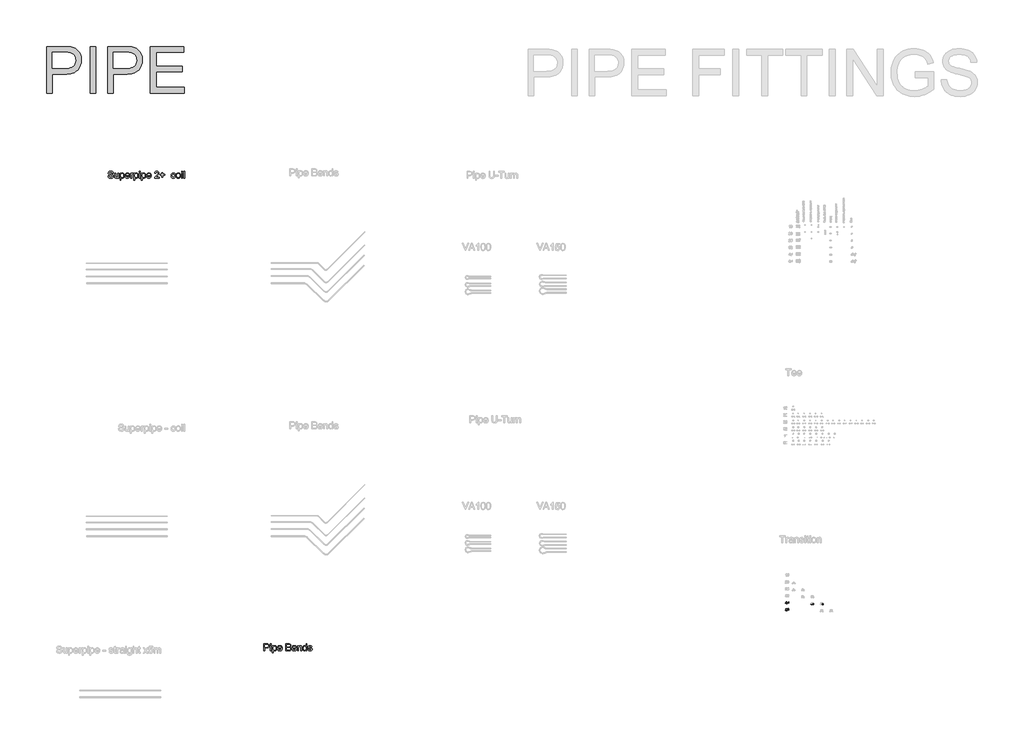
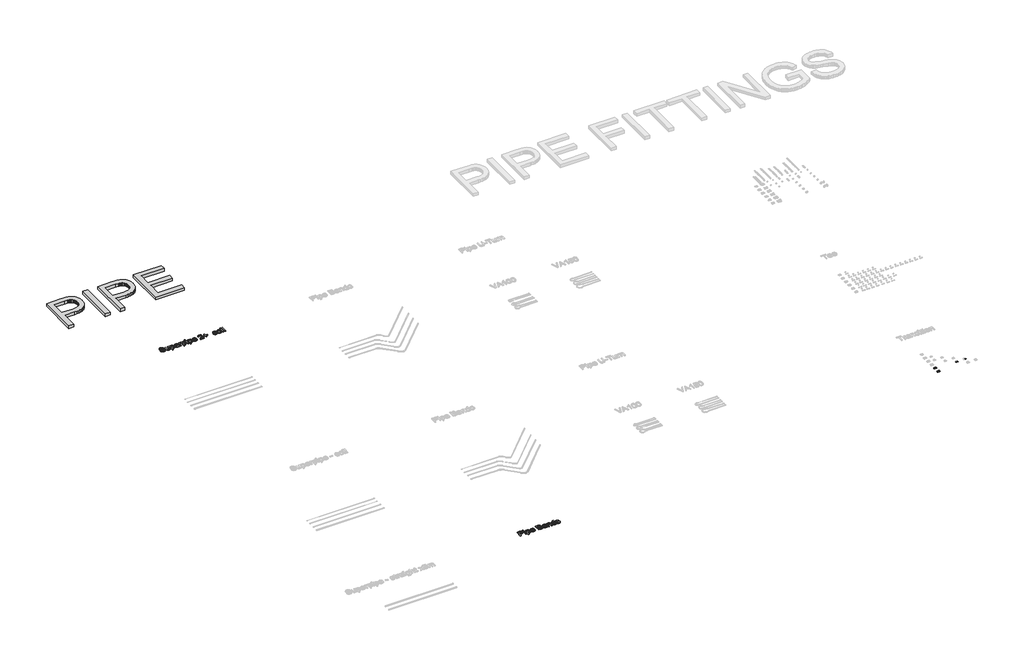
# One storey, part 13 of 26: 8 proxies.
"""IFC4 building model written with IfcOpenShell, lengths in millimetres."""

import ifcopenshell
import ifcopenshell.guid

model = None  # the IFC model being written
_history = None  # IfcOwnerHistory: only IFC2X3 demands one
_inside = {}  # id of a spatial element -> (the spatial element, [elements in it])
_under = {}  # id of a project, library or spatial element -> (it, [spatial elements below it])
_declared = {}  # id of a project -> (the project, [libraries it declares])
_typed = {}  # id of a type object -> (the type object, [elements of that type])
_made_of = {}  # id of a material, layer set ... -> (it, [elements and type objects made of it])


def new_model(schema):
    """Start an empty IFC model of exactly this schema.

    Asked for "IFC4X3", IfcOpenShell would pick the latest addendum, in which some entities
    have other attributes; the version numbers below select the first issue.
    IFC2X3 requires an IfcOwnerHistory on every rooted entity: one is made here for all.
    """
    global model, _history
    if schema == "IFC4X3":
        model = ifcopenshell.file(schema_version=(4, 3, 0, 0))
    else:
        model = ifcopenshell.file(schema=schema)
    _inside.clear()
    _under.clear()
    _declared.clear()
    _typed.clear()
    _made_of.clear()
    _history = None
    if model.schema == "IFC2X3":
        org = make("IfcOrganization", Name="unknown")
        user = make(
            "IfcPersonAndOrganization",
            ThePerson=make("IfcPerson", FamilyName="unknown"),
            TheOrganization=org,
        )
        app = make(
            "IfcApplication",
            ApplicationDeveloper=org,
            Version="unknown",
            ApplicationFullName="unknown",
            ApplicationIdentifier="unknown",
        )
        _history = make(
            "IfcOwnerHistory",
            OwningUser=user,
            OwningApplication=app,
            ChangeAction="ADDED",
            CreationDate=0,
        )
    return model


def make(cls, **values):
    """One entity of the class cls with the attributes given. An attribute that is None is left unset."""
    return model.create_entity(
        cls, **{name: value for name, value in values.items() if value is not None}
    )


def rooted(cls, **values):
    """An entity with a GlobalId (a new one), such as an element, a storey or a relation."""
    return make(cls, GlobalId=ifcopenshell.guid.new(), OwnerHistory=_history, **values)


def si_unit(unit_type, name, prefix=None):
    """IfcSIUnit, for example si_unit("LENGTHUNIT", "METRE", prefix="MILLI")."""
    return make("IfcSIUnit", UnitType=unit_type, Prefix=prefix, Name=name)


def assignment(units):
    """IfcUnitAssignment: the units of a project."""
    return None if units is None else make("IfcUnitAssignment", Units=units)


def point(xyz):
    """IfcCartesianPoint."""
    return None if xyz is None else make("IfcCartesianPoint", Coordinates=xyz)


def direction(xyz):
    """IfcDirection."""
    return None if xyz is None else make("IfcDirection", DirectionRatios=xyz)


def frame(location, z_axis=None, x_axis=None):
    """IfcAxis2Placement3D, a coordinate frame: its origin and axes. An axis left out is left unset."""
    return make(
        "IfcAxis2Placement3D",
        Location=point(location),
        Axis=direction(z_axis),
        RefDirection=direction(x_axis),
    )


def origin():
    """The frame at (0, 0, 0) with its axes left unset."""
    return frame((0.0, 0.0, 0.0))


def origin_with_axes():
    """The frame at (0, 0, 0) with the z axis (0, 0, 1) and the x axis (1, 0, 0) written out."""
    return frame((0.0, 0.0, 0.0), z_axis=(0.0, 0.0, 1.0), x_axis=(1.0, 0.0, 0.0))


def place(relative_to, where):
    """IfcLocalPlacement: puts the frame where relative to a parent placement (None: the world)."""
    return make(
        "IfcLocalPlacement", PlacementRelTo=relative_to, RelativePlacement=where
    )


def context(
    kind, dimensions, precision=None, world=None, true_north=None, identifier=None
):
    """IfcGeometricRepresentationContext, for example the 3D "Model" context."""
    return make(
        "IfcGeometricRepresentationContext",
        ContextIdentifier=identifier,
        ContextType=kind,
        CoordinateSpaceDimension=dimensions,
        Precision=precision,
        WorldCoordinateSystem=world,
        TrueNorth=true_north,
    )


def project(units=None, contexts=None):
    """IfcProject with its units and contexts."""
    return rooted(
        "IfcProject",
        Name="project",
        RepresentationContexts=contexts,
        UnitsInContext=assignment(units),
    )


def spatial(cls, under=None, at=None, **own):
    """A site, building, storey or space (cls), placed at a placement, below another one or the project."""
    s = rooted(cls, ObjectPlacement=at, **own)
    if under is not None:
        _under.setdefault(under.id(), (under, []))[1].append(s)
    return s


def polyline(points):
    """IfcPolyline through the points."""
    return make("IfcPolyline", Points=[point(p) for p in points])


def outline(outer, holes=None, kind="AREA"):
    """IfcArbitraryClosedProfileDef: a profile drawn as a closed curve; with holes, ...WithVoids."""
    if holes is None:
        return make("IfcArbitraryClosedProfileDef", ProfileType=kind, OuterCurve=outer)
    return make(
        "IfcArbitraryProfileDefWithVoids",
        ProfileType=kind,
        OuterCurve=outer,
        InnerCurves=holes,
    )


def extrude(swept, where, along, depth):
    """IfcExtrudedAreaSolid: the profile swept, set in the frame where, extruded along a direction by depth."""
    return make(
        "IfcExtrudedAreaSolid",
        SweptArea=swept,
        Position=where,
        ExtrudedDirection=direction(along),
        Depth=depth,
    )


def shape(context_of_items, identifier, shape_type, items):
    """IfcShapeRepresentation: the items that make up one representation, for example the "Body"."""
    return make(
        "IfcShapeRepresentation",
        ContextOfItems=context_of_items,
        RepresentationIdentifier=identifier,
        RepresentationType=shape_type,
        Items=items,
    )


def made_of(thing, what):
    """Note that an element or type object is made of a material, layer set ...; save() writes the relation."""
    if what is not None:
        _made_of.setdefault(what.id(), (what, []))[1].append(thing)
    return thing


def element(
    cls,
    number,
    at=None,
    inside=None,
    cuts=None,
    type_object=None,
    material=None,
    context=None,
    identifier="Body",
    shape_type=None,
    held_by="IfcProductDefinitionShape",
    body=None,
    shapes=None,
    **own,
):
    """One element of the class cls, such as IfcWall. Its Tag is "e" and its number.

    at: its placement. inside: the storey or other place that contains it. cuts: it is an
    opening in that element (IfcRelVoidsElement). A single representation is given by context,
    identifier, shape_type and body (its items); several are given by shapes. held_by: the class
    of the entity that holds the representations. save() writes the other relations.
    """
    e = rooted(cls, Tag="e%d" % number, ObjectPlacement=at, **own)
    if body is not None:
        shapes = [shape(context, identifier, shape_type, body)]
    if shapes is not None:
        e.Representation = make(held_by, Representations=shapes)
    if inside is not None:
        _inside.setdefault(inside.id(), (inside, []))[1].append(e)
    if cuts is not None:
        rooted(
            "IfcRelVoidsElement", RelatingBuildingElement=cuts, RelatedOpeningElement=e
        )
    if type_object is not None:
        _typed.setdefault(type_object.id(), (type_object, []))[1].append(e)
    return made_of(e, material)


def aggregate(whole, parts):
    """IfcRelAggregates: a whole, such as a stair, and the parts it consists of."""
    return rooted("IfcRelAggregates", RelatingObject=whole, RelatedObjects=parts)


def save(model, path):
    """Write the relations noted so far, then the file.

    IfcRelAggregates (storeys below a building ...), IfcRelContainedInSpatialStructure (elements
    in a storey), IfcRelDefinesByType, IfcRelAssociatesMaterial and IfcRelDeclares: one each for
    every whole, place, type object, material and project.
    """
    for whole, parts in _under.values():
        aggregate(whole, parts)
    for where, things in _inside.values():
        rooted(
            "IfcRelContainedInSpatialStructure",
            RelatedElements=things,
            RelatingStructure=where,
        )
    for kind, things in _typed.values():
        rooted("IfcRelDefinesByType", RelatedObjects=things, RelatingType=kind)
    for what, things in _made_of.values():
        rooted("IfcRelAssociatesMaterial", RelatedObjects=things, RelatingMaterial=what)
    for by, libraries in _declared.values():
        rooted("IfcRelDeclares", RelatingContext=by, RelatedDefinitions=libraries)
    model.write(path)


model = new_model("IFC4")

# Units and contexts
model_context = context("Model", 3, world=origin())
ifc_project = project(units=[si_unit("LENGTHUNIT", "METRE", prefix="MILLI")], contexts=[model_context])

# Site, building, storey
site = spatial("IfcSite", under=ifc_project)
building = spatial("IfcBuilding", under=site)
storey = spatial("IfcBuildingStorey", under=building, Name="Superpipe UFH", Elevation=0.0)

# Proxies
placement = place(None, origin())
element("IfcBuildingElementProxy", 1, Name="100mm Arial", ObjectType="100mm Arial", at=placement, inside=storey, context=model_context, shape_type="SweptSolid", body=[
    extrude(outline(polyline([(25289.336448, 15906.9604768), (25289.336448, 15930.5049245), (25243.8171825, 15930.5049245), (25243.8171825, 15943.0619633), (25292.4757077, 16005.8471571), (25301.8934868, 16005.8471571), (25301.8934868, 15943.0619633), (25314.4505256, 15943.0619633), (25314.4505256, 15930.5049245), (25301.8934868, 15930.5049245), (25301.8934868, 15906.9604768), (25289.336448, 15906.9604768)]), holes=[polyline([(25289.336448, 15943.0619633), (25289.336448, 15981.8612511), (25259.2682263, 15943.0619633), (25289.336448, 15943.0619633)])]), origin_with_axes(), (0.0, 0.0, 1.0), 2.0),
    extrude(outline(polyline([(25325.4379345, 15956.3792915), (25329.1290172, 15985.2825536), (25340.0919006, 16001.947608), (25358.4001612, 16007.416787), (25373.0663901, 16004.1794254), (25383.1954077, 15994.8474855), (25389.0815196, 15979.9850529), (25391.362388, 15956.3792915), (25387.7080935, 15927.5986568), (25376.7819983, 15910.8968142), (25368.5506386, 15906.7673388), (25358.4001612, 15905.390847), (25345.3526131, 15907.78208), (25335.4443247, 15914.9557789), (25327.939532, 15931.9457957), (25325.4379345, 15956.3792915)]), holes=[polyline([(25337.9949732, 15956.403817), (25339.4665012, 15936.6516195), (25343.8810852, 15925.2196865), (25350.4539101, 15919.765836), (25358.4001612, 15917.9478858), (25366.3464123, 15919.7719673), (25372.9192373, 15925.244212), (25377.3338213, 15936.6822764), (25378.8053492, 15956.403817), (25377.3828722, 15975.7114904), (25373.1154411, 15987.2323282), (25366.5548788, 15992.9528932), (25358.2530084, 15994.8597482), (25350.3925965, 15993.1797538), (25344.0772889, 15988.1397704), (25339.5155522, 15975.9015627), (25337.9949732, 15956.403817)])]), origin_with_axes(), (0.0, 0.0, 1.0), 2.0),
])
element("IfcBuildingElementProxy", 2, Name="100mm Arial", ObjectType="100mm Arial", at=placement, inside=storey, context=model_context, shape_type="SweptSolid", body=[
    extrude(outline(polyline([(25248.526072, 15633.6441842), (25261.0831108, 15635.2138141), (25267.4106811, 15622.2766306), (25280.5318056, 15617.9478858), (25289.5326517, 15619.4531363), (25296.277155, 15623.9688878), (25300.4894038, 15630.9739741), (25301.8934868, 15639.9472291), (25296.6327743, 15654.8587126), (25290.0262268, 15658.9605969), (25280.7280093, 15660.3278916), (25269.7038122, 15658.1451251), (25262.6527406, 15652.4797424), (25250.0957019, 15654.0493722), (25261.0831108, 15705.8471571), (25309.741636, 15705.8471571), (25309.741636, 15693.2901184), (25271.2366539, 15693.2901184), (25265.8655767, 15665.6253923), (25274.835766, 15671.0700459), (25284.235151, 15672.8849304), (25295.967521, 15670.6347188), (25305.7071968, 15663.8840842), (25312.2646934, 15653.5956511), (25314.4505256, 15640.732044), (25312.4823569, 15628.1750052), (25306.5778509, 15617.432851), (25295.2716109, 15608.401348), (25280.4827547, 15605.390847), (25268.1495108, 15607.3252932), (25258.3239958, 15613.1286316), (25251.5886896, 15622.1264121), (25248.526072, 15633.6441842)])), origin_with_axes(), (0.0, 0.0, 1.0), 2.0),
    extrude(outline(polyline([(25325.4379345, 15656.3792915), (25329.1290172, 15685.2825536), (25340.0919006, 15701.947608), (25358.4001612, 15707.416787), (25373.0663901, 15704.1794254), (25383.1954077, 15694.8474855), (25389.0815196, 15679.9850529), (25391.362388, 15656.3792915), (25387.7080935, 15627.5986568), (25376.7819983, 15610.8968142), (25368.5506386, 15606.7673388), (25358.4001612, 15605.390847), (25345.3526131, 15607.78208), (25335.4443247, 15614.9557789), (25327.939532, 15631.9457957), (25325.4379345, 15656.3792915)]), holes=[polyline([(25337.9949732, 15656.403817), (25339.4665012, 15636.6516195), (25343.8810852, 15625.2196865), (25350.4539101, 15619.765836), (25358.4001612, 15617.9478858), (25366.3464123, 15619.7719673), (25372.9192373, 15625.244212), (25377.3338213, 15636.6822764), (25378.8053492, 15656.403817), (25377.3828722, 15675.7114904), (25373.1154411, 15687.2323282), (25366.5548788, 15692.9528932), (25358.2530084, 15694.8597482), (25350.3925965, 15693.1797538), (25344.0772889, 15688.1397704), (25339.5155522, 15675.9015627), (25337.9949732, 15656.403817)])]), origin_with_axes(), (0.0, 0.0, 1.0), 2.0),
])
element("IfcBuildingElementProxy", 3, Name="2000mm Arial", ObjectType="2000mm Arial", at=placement, inside=storey, context=model_context, shape_type="SweptSolid", body=[
    extrude(outline(polyline([(-6706.8962748, 37999.3793084), (-6706.8962748, 40008.5055114), (-5962.3031165, 40008.5055114), (-5788.9080695, 40003.7230455), (-5719.6849407, 39997.7449631), (-5662.1114085, 39989.3756477), (-5592.2291578, 39974.3078143), (-5528.2636759, 39953.6297805), (-5470.2149627, 39927.3415462), (-5418.0830183, 39895.4431116), (-5371.3160197, 39857.2753546), (-5329.3621438, 39812.1791533), (-5292.2213907, 39760.1545078), (-5259.8937604, 39701.2014181), (-5233.7128251, 39637.266593), (-5215.012157, 39570.2967415), (-5203.7917561, 39500.2918635), (-5200.0516225, 39427.251959), (-5202.5769791, 39364.3518021), (-5210.153049, 39303.9195202), (-5222.779832, 39245.9551133), (-5240.4573283, 39190.4585815), (-5263.1855378, 39137.4299247), (-5290.9644606, 39086.869143), (-5323.7940965, 39038.7762363), (-5361.6744457, 38993.1512047), (-5406.146014, 38951.534554), (-5458.7493072, 38915.4667901), (-5519.4843253, 38884.9479129), (-5588.3510684, 38859.9779225), (-5665.3495364, 38840.5568188), (-5750.4797294, 38826.6846019), (-5843.7416473, 38818.3612718), (-5945.1352901, 38815.5868284), (-6455.7554994, 38815.5868284), (-6455.7554994, 37999.3793084), (-6706.8962748, 37999.3793084)]), holes=[polyline([(-6455.7554994, 39066.7276038), (-5930.4200103, 39066.7276038), (-5809.6320885, 39072.4910884), (-5756.3198561, 39079.6954441), (-5707.7287759, 39089.7815421), (-5663.8588479, 39102.7493825), (-5624.7100723, 39118.5989651), (-5590.2824489, 39137.33029), (-5560.5759778, 39158.9433572), (-5534.9392012, 39183.1699194), (-5512.7206616, 39209.7417294), (-5493.9203588, 39238.6587871), (-5478.5382929, 39269.9210924), (-5466.5744638, 39303.5286455), (-5458.0288716, 39339.4814464), (-5452.9015163, 39377.7794949), (-5451.1923979, 39418.4227912), (-5455.2237714, 39477.0386557), (-5467.317892, 39531.2399363), (-5487.4747597, 39581.026633), (-5515.6943744, 39626.3987458), (-5550.4745513, 39665.8847466), (-5590.3131057, 39698.0131075), (-5635.2100376, 39722.7838285), (-5685.1653468, 39740.1969096), (-5726.4294439, 39747.7078337), (-5782.0409389, 39753.0727794), (-5936.3061222, 39757.364736), (-6455.7554994, 39757.364736), (-6455.7554994, 39066.7276038)])]), origin_with_axes(), (0.0, 0.0, 1.0), 150.0),
    extrude(outline(polyline([(-4823.3404595, 37999.3793084), (-4823.3404595, 40008.5055114), (-4572.1996841, 40008.5055114), (-4572.1996841, 37999.3793084), (-4823.3404595, 37999.3793084)])), origin_with_axes(), (0.0, 0.0, 1.0), 150.0),
    extrude(outline(polyline([(-4069.9181333, 37999.3793084), (-4069.9181333, 40008.5055114), (-3325.3249751, 40008.5055114), (-3151.929928, 40003.7230455), (-3082.7067993, 39997.7449631), (-3025.133267, 39989.3756477), (-2955.2510164, 39974.3078143), (-2891.2855344, 39953.6297805), (-2833.2368213, 39927.3415462), (-2781.1048769, 39895.4431116), (-2734.3378783, 39857.2753546), (-2692.3840024, 39812.1791533), (-2655.2432493, 39760.1545078), (-2622.915619, 39701.2014181), (-2596.7346836, 39637.266593), (-2578.0340156, 39570.2967415), (-2566.8136147, 39500.2918635), (-2563.0734811, 39427.251959), (-2565.5988377, 39364.3518021), (-2573.1749075, 39303.9195202), (-2585.8016906, 39245.9551133), (-2603.4791869, 39190.4585815), (-2626.2073964, 39137.4299247), (-2653.9863191, 39086.869143), (-2686.8159551, 39038.7762363), (-2724.6963043, 38993.1512047), (-2769.1678726, 38951.534554), (-2821.7711658, 38915.4667901), (-2882.5061839, 38884.9479129), (-2951.372927, 38859.9779225), (-3028.371395, 38840.5568188), (-3113.501588, 38826.6846019), (-3206.7635058, 38818.3612718), (-3308.1571486, 38815.5868284), (-3818.777358, 38815.5868284), (-3818.777358, 37999.3793084), (-4069.9181333, 37999.3793084)]), holes=[polyline([(-3818.777358, 39066.7276038), (-3293.4418688, 39066.7276038), (-3172.6539471, 39072.4910884), (-3119.3417146, 39079.6954441), (-3070.7506344, 39089.7815421), (-3026.8807065, 39102.7493825), (-2987.7319309, 39118.5989651), (-2953.3043075, 39137.33029), (-2923.5978364, 39158.9433572), (-2897.9610598, 39183.1699194), (-2875.7425202, 39209.7417294), (-2856.9422174, 39238.6587871), (-2841.5601514, 39269.9210924), (-2829.5963224, 39303.5286455), (-2821.0507302, 39339.4814464), (-2815.9233749, 39377.7794949), (-2814.2142565, 39418.4227912), (-2818.24563, 39477.0386557), (-2830.3397506, 39531.2399363), (-2850.4966182, 39581.026633), (-2878.7162329, 39626.3987458), (-2913.4964099, 39665.8847466), (-2953.3349643, 39698.0131075), (-2998.2318961, 39722.7838285), (-3048.1872054, 39740.1969096), (-3089.4513025, 39747.7078337), (-3145.0627975, 39753.0727794), (-3299.3279808, 39757.364736), (-3818.777358, 39757.364736), (-3818.777358, 39066.7276038)])]), origin_with_axes(), (0.0, 0.0, 1.0), 150.0),
    extrude(outline(polyline([(-2217.7549149, 37999.3793084), (-2217.7549149, 40008.5055114), (-773.6954565, 40008.5055114), (-773.6954565, 39757.364736), (-1966.6141396, 39757.364736), (-1966.6141396, 39160.9053945), (-836.4806504, 39160.9053945), (-836.4806504, 38909.7646192), (-1966.6141396, 38909.7646192), (-1966.6141396, 38250.5200838), (-742.3028596, 38250.5200838), (-742.3028596, 37999.3793084), (-2217.7549149, 37999.3793084)])), origin_with_axes(), (0.0, 0.0, 1.0), 150.0),
])
element("IfcBuildingElementProxy", 4, Name="30mm Arial", ObjectType="30mm Arial", at=placement, inside=storey, context=model_context, shape_type="SweptSolid", body=[
    extrude(outline(polyline([(26441.1614513, 15881.0875868), (26441.1614513, 15877.3204752), (26421.3841153, 15877.3204752), (26421.7887855, 15879.917722), (26424.0770115, 15883.9165993), (26428.7932587, 15888.2833586), (26435.2974123, 15894.5594254), (26436.9234508, 15898.8268566), (26435.3893828, 15902.2812685), (26431.3831479, 15903.6902566), (26427.2076873, 15902.3143779), (26425.6221159, 15898.5104781), (26421.8550042, 15898.981367), (26424.7428779, 15905.2868644), (26431.4640819, 15907.4573682), (26438.2073589, 15905.0440623), (26440.6905624, 15899.0549434), (26440.0210171, 15895.4828093), (26437.7953311, 15891.789274), (26432.3985022, 15886.6278896), (26428.0648523, 15883.004252), (26426.3652375, 15881.0875868), (26441.1614513, 15881.0875868)])), origin_with_axes(), (0.0, 0.0, 1.0), 2.0),
    extrude(outline(polyline([(26444.928563, 15885.3255874), (26448.6956746, 15885.7964763), (26450.5939457, 15881.9153213), (26454.530283, 15880.6166978), (26459.2538879, 15882.4229984), (26460.9387874, 15887.2165008), (26459.3605736, 15891.6899459), (26454.5891442, 15893.3306996), (26451.281885, 15892.6758696), (26449.1665635, 15890.9762548), (26445.3994519, 15891.4471438), (26448.6956746, 15906.9864792), (26463.2932322, 15906.9864792), (26463.2932322, 15903.2193676), (26451.7417375, 15903.2193676), (26450.1304144, 15894.9199498), (26455.6412867, 15897.0978112), (26462.0829004, 15894.3975574), (26464.705899, 15887.4519453), (26462.3440966, 15880.4621874), (26454.5155678, 15876.8495862), (26447.8679401, 15879.1709216), (26444.928563, 15885.3255874)])), origin_with_axes(), (0.0, 0.0, 1.0), 2.0),
])
element("IfcBuildingElementProxy", 5, Name="30mm Arial", ObjectType="30mm Arial", at=placement, inside=storey, context=model_context, shape_type="SweptSolid", body=[
    extrude(outline(polyline([(26364.098117, 15877.3204752), (26364.098117, 15884.3838095), (26350.4423374, 15884.3838095), (26350.4423374, 15888.1509211), (26365.0398949, 15906.9864792), (26367.8652287, 15906.9864792), (26367.8652287, 15888.1509211), (26371.6323403, 15888.1509211), (26371.6323403, 15884.3838095), (26367.8652287, 15884.3838095), (26367.8652287, 15877.3204752), (26364.098117, 15877.3204752)]), holes=[polyline([(26364.098117, 15888.1509211), (26364.098117, 15899.7907074), (26355.0776505, 15888.1509211), (26364.098117, 15888.1509211)])]), origin_with_axes(), (0.0, 0.0, 1.0), 2.0),
    extrude(outline(polyline([(26374.928563, 15892.1461196), (26376.0358878, 15900.8170982), (26379.3247528, 15905.8166145), (26384.817231, 15907.4573682), (26389.2170997, 15906.4861597), (26392.2558049, 15903.6865777), (26394.0216385, 15899.227848), (26394.705899, 15892.1461196), (26393.6096107, 15883.5119291), (26390.3317821, 15878.5013764), (26384.817231, 15876.8495862), (26377.93048, 15879.7190658), (26374.928563, 15892.1461196)]), holes=[polyline([(26378.6956746, 15892.1534772), (26380.4615082, 15882.7982381), (26384.817231, 15880.6166978), (26389.1729538, 15882.8055957), (26390.9387874, 15892.1534772), (26389.2318149, 15901.4020306), (26384.7730852, 15903.6902566), (26380.5203693, 15901.6742632), (26378.6956746, 15892.1534772)])]), origin_with_axes(), (0.0, 0.0, 1.0), 2.0),
])
element("IfcBuildingElementProxy", 6, Name="30mm Arial", ObjectType="30mm Arial", at=placement, inside=storey, context=model_context, shape_type="SweptSolid", body=[
    extrude(outline(polyline([(26831.8550042, 15885.3255874), (26835.6221159, 15885.7964763), (26837.7006491, 15881.8307084), (26841.5891618, 15880.6166978), (26846.1656138, 15882.2868821), (26847.8652287, 15886.4218757), (26846.1803291, 15890.317746), (26841.8981827, 15891.8591716), (26839.25679, 15891.4471438), (26839.6761754, 15895.2142554), (26844.5542907, 15896.2516826), (26846.4525618, 15899.5773359), (26845.0766831, 15902.5240706), (26841.5303007, 15903.6902566), (26837.9397724, 15902.5130342), (26836.0930048, 15898.981367), (26832.3258932, 15899.452256), (26835.4087443, 15905.3604408), (26841.3978632, 15907.4573682), (26845.9412058, 15906.4236198), (26849.1197063, 15903.5982861), (26850.2196734, 15899.7980651), (26849.1748886, 15896.325259), (26846.0846798, 15893.8310191), (26850.1902429, 15891.2558451), (26851.6323403, 15886.355657), (26848.7481454, 15879.6160588), (26841.4567243, 15876.8495862), (26834.8495637, 15879.2113886), (26831.8550042, 15885.3255874)])), origin_with_axes(), (0.0, 0.0, 1.0), 2.0),
    extrude(outline(polyline([(26874.2350101, 15881.0875868), (26874.2350101, 15877.3204752), (26854.457674, 15877.3204752), (26854.8623442, 15879.917722), (26857.1505702, 15883.9165993), (26861.8668174, 15888.2833586), (26868.3709711, 15894.5594254), (26869.9970095, 15898.8268566), (26868.4629416, 15902.2812685), (26864.4567066, 15903.6902566), (26860.281246, 15902.3143779), (26858.6956746, 15898.5104781), (26854.928563, 15898.981367), (26857.8164366, 15905.2868644), (26864.5376407, 15907.4573682), (26871.2809177, 15905.0440623), (26873.7641211, 15899.0549434), (26873.0945759, 15895.4828093), (26870.8688898, 15891.789274), (26865.4720609, 15886.6278896), (26861.138411, 15883.004252), (26859.4387962, 15881.0875868), (26874.2350101, 15881.0875868)])), origin_with_axes(), (0.0, 0.0, 1.0), 2.0),
])
element("IfcBuildingElementProxy", 7, Name="600mm Arial", ObjectType="600mm Arial", at=placement, inside=storey, context=model_context, shape_type="SweptSolid", body=[
    extrude(outline(polyline([(-4047.9792515, 34417.6339075), (-4010.3081351, 34417.6339075), (-4005.9855217, 34396.7290132), (-3998.1680293, 34379.926003), (-3985.9727412, 34366.5902807), (-3968.5167405, 34356.0872497), (-3947.1795848, 34349.2722358), (-3923.3408315, 34347.0005645), (-3902.3531637, 34348.7204128), (-3883.977458, 34353.8799578), (-3869.0874342, 34362.0469381), (-3858.5568121, 34372.7890923), (-3852.2936212, 34385.1223362), (-3850.2058908, 34398.0625854), (-3851.7693893, 34410.6717408), (-3856.4598848, 34421.5702449), (-3865.9880284, 34430.8684623), (-3882.0644716, 34438.6767577), (-3936.9156771, 34453.0609437), (-3972.9221274, 34462.5798903), (-3995.9607373, 34471.6389844), (-4014.713522, 34484.3125192), (-4028.0032591, 34499.6715925), (-4035.9219191, 34517.3851105), (-4038.5614724, 34537.1219796), (-4035.2965197, 34559.1857022), (-4025.5016615, 34579.7595028), (-4009.4344154, 34597.1971094), (-3987.3522986, 34609.85225), (-3960.8464009, 34617.5501808), (-3931.5078118, 34620.1161577), (-3899.7228074, 34617.4306191), (-3871.9109286, 34609.3740034), (-3849.0654567, 34596.1118575), (-3832.1796731, 34577.8097282), (-3821.4927011, 34555.6080498), (-3817.2436641, 34530.6472565), (-3854.9147804, 34530.6472565), (-3861.8309619, 34553.1248464), (-3876.2519361, 34569.3484423), (-3898.7847083, 34579.1708916), (-3930.0362838, 34582.4450414), (-3962.0236233, 34579.2076798), (-3983.9677843, 34569.4955951), (-3996.6597131, 34555.2033796), (-4000.8903561, 34538.2256256), (-3997.8921178, 34523.749469), (-3988.897403, 34512.1060039), (-3967.6338237, 34501.6949434), (-3927.3875334, 34491.0631538), (-3885.8536562, 34480.964793), (-3860.7273159, 34472.1540192), (-3839.2522044, 34458.4872031), (-3824.2702102, 34441.6198136), (-3815.4686335, 34421.7357918), (-3812.5347745, 34399.0190786), (-3815.9100918, 34375.7965276), (-3826.0360438, 34353.9535342), (-3842.498763, 34335.1547642), (-3864.8843825, 34321.0648838), (-3891.8041475, 34312.2633071), (-3921.8693035, 34309.3294482), (-3958.7770647, 34312.4932333), (-3989.1549204, 34321.9845888), (-4013.3523587, 34337.8403028), (-4031.7188673, 34360.0971635), (-4043.5094852, 34387.2100665), (-4047.9792515, 34417.6339075)])), origin_with_axes(), (0.0, 0.0, 1.0), 30.0),
    extrude(outline(polyline([(-3619.4703035, 34314.0383377), (-3619.4703035, 34352.077336), (-3633.1003314, 34333.3751351), (-3648.9744395, 34320.0164201), (-3667.0926277, 34312.0011911), (-3687.4548962, 34309.3294482), (-3705.8030107, 34311.2056463), (-3722.8819323, 34316.8342409), (-3737.210936, 34325.2955267), (-3747.3092968, 34335.669799), (-3758.5296976, 34363.4081014), (-3760.7369896, 34398.4304674), (-3760.7369896, 34535.356146), (-3723.0658733, 34535.356146), (-3723.0658733, 34416.1623796), (-3720.7850049, 34377.7554993), (-3715.2943662, 34364.9440088), (-3705.8857841, 34355.204333), (-3693.1846583, 34349.0515066), (-3677.8163879, 34347.0005645), (-3661.5652008, 34349.0974918), (-3646.3624773, 34355.388274), (-3633.8268983, 34365.2934967), (-3625.5771446, 34378.2337459), (-3620.9970138, 34395.956461), (-3619.4703035, 34420.2090815), (-3619.4703035, 34535.356146), (-3581.7991872, 34535.356146), (-3581.7991872, 34314.0383377), (-3619.4703035, 34314.0383377)])), origin_with_axes(), (0.0, 0.0, 1.0), 30.0),
    extrude(outline(polyline([(-3530.0014022, 34229.278326), (-3530.0014022, 34535.356146), (-3492.3302859, 34535.356146), (-3492.3302859, 34498.4207937), (-3480.0430273, 34516.6401495), (-3466.2842407, 34529.6539751), (-3450.2445857, 34537.4622704), (-3431.1147219, 34540.0650355), (-3405.6388938, 34536.4230038), (-3383.363639, 34525.4969085), (-3365.2270566, 34507.9489374), (-3352.1672458, 34484.4412779), (-3344.276177, 34456.6845813), (-3341.6458207, 34426.389499), (-3344.6164678, 34394.1722333), (-3353.5284092, 34365.357876), (-3368.0965362, 34341.4087581), (-3388.0357403, 34323.7872106), (-3411.2582913, 34312.9438888), (-3435.6764587, 34309.3294482), (-3452.9945036, 34311.7482723), (-3468.4547445, 34319.0047446), (-3481.6892992, 34329.958431), (-3492.3302859, 34343.4688973), (-3492.3302859, 34229.278326), (-3530.0014022, 34229.278326)]), holes=[polyline([(-3492.3302859, 34422.9314083), (-3488.2559928, 34389.1598411), (-3476.0331136, 34365.541817), (-3457.9976987, 34351.6358776), (-3436.4857991, 34347.0005645), (-3414.6244115, 34351.8014245), (-3396.1291442, 34366.2040046), (-3383.5199888, 34390.6865514), (-3379.316937, 34425.7273114), (-3383.4188213, 34459.3149376), (-3395.724474, 34483.2640555), (-3413.7322977, 34497.6114533), (-3434.9406947, 34502.3939192), (-3456.2318652, 34497.3079506), (-3474.9294676, 34482.0500449), (-3487.9800813, 34457.0984486), (-3492.3302859, 34422.9314083)])]), origin_with_axes(), (0.0, 0.0, 1.0), 30.0),
    extrude(outline(polyline([(-3144.3139185, 34379.9627912), (-3107.3785662, 34375.2539017), (-3120.6866974, 34347.4236288), (-3141.9226855, 34326.6199019), (-3170.6082841, 34313.6520616), (-3206.2652465, 34309.3294482), (-3229.6395488, 34311.19415), (-3250.4662682, 34316.7882556), (-3268.7454048, 34326.1117649), (-3284.4769587, 34339.164678), (-3297.1275008, 34355.5837113), (-3306.1636023, 34375.0055813), (-3311.5852632, 34397.4302882), (-3313.3924835, 34422.8578319), (-3311.5668691, 34449.1475989), (-3306.0900259, 34472.3195661), (-3296.9619539, 34492.3737334), (-3284.1826531, 34509.3101007), (-3268.492486, 34522.7653847), (-3250.6318151, 34532.3763018), (-3230.6006405, 34538.1428521), (-3208.3989621, 34540.0650355), (-3186.9123543, 34538.1474506), (-3167.4812871, 34532.3946959), (-3150.1057607, 34522.8067714), (-3134.7857748, 34509.3836771), (-3122.2800863, 34492.484098), (-3113.3474516, 34472.4667189), (-3107.9878707, 34449.3315399), (-3106.2013438, 34423.0785611), (-3106.422073, 34412.925018), (-3275.7213672, 34412.925018), (-3269.2006588, 34384.7268631), (-3254.0531177, 34363.9967126), (-3232.1917301, 34351.2496015), (-3205.5294825, 34347.0005645), (-3185.4799138, 34348.9687331), (-3168.5941302, 34354.8732392), (-3154.8721318, 34365.0819645), (-3144.3139185, 34379.9627912)]), holes=[polyline([(-3275.7213672, 34450.5961343), (-3143.8724601, 34450.5961343), (-3148.9676257, 34470.4985502), (-3158.9556219, 34484.7355835), (-3180.918177, 34497.9793353), (-3208.5461149, 34502.3939192), (-3233.9391696, 34498.8714491), (-3254.9360345, 34488.3040388), (-3269.5317526, 34471.8321225), (-3275.7213672, 34450.5961343)])]), origin_with_axes(), (0.0, 0.0, 1.0), 30.0),
    extrude(outline(polyline([(-3068.5302275, 34314.0383377), (-3068.5302275, 34535.356146), (-3035.5680007, 34535.356146), (-3035.5680007, 34502.6146484), (-3023.3911067, 34521.5973594), (-3012.1707058, 34532.780972), (-3000.9135168, 34538.2440197), (-2988.6262581, 34540.0650355), (-2969.8642764, 34537.1587678), (-2950.807989, 34528.4399645), (-2963.3895533, 34494.6683973), (-2976.6333051, 34500.4625387), (-2989.8770569, 34502.3939192), (-3001.1250489, 34500.5361151), (-3011.1774244, 34494.9627029), (-3019.2984195, 34486.0967468), (-3024.7522701, 34474.3613112), (-3029.3324009, 34453.3184611), (-3030.8591112, 34430.3626246), (-3030.8591112, 34314.0383377), (-3068.5302275, 34314.0383377)])), origin_with_axes(), (0.0, 0.0, 1.0), 30.0),
    extrude(outline(polyline([(-2927.2635413, 34229.278326), (-2927.2635413, 34535.356146), (-2889.592425, 34535.356146), (-2889.592425, 34498.4207937), (-2877.3051664, 34516.6401495), (-2863.5463798, 34529.6539751), (-2847.5067248, 34537.4622704), (-2828.376861, 34540.0650355), (-2802.9010329, 34536.4230038), (-2780.6257781, 34525.4969085), (-2762.4891957, 34507.9489374), (-2749.4293849, 34484.4412779), (-2741.5383161, 34456.6845813), (-2738.9079598, 34426.389499), (-2741.8786069, 34394.1722333), (-2750.7905483, 34365.357876), (-2765.3586753, 34341.4087581), (-2785.2978794, 34323.7872106), (-2808.5204304, 34312.9438888), (-2832.9385978, 34309.3294482), (-2850.2566427, 34311.7482723), (-2865.7168836, 34319.0047446), (-2878.9514383, 34329.958431), (-2889.592425, 34343.4688973), (-2889.592425, 34229.278326), (-2927.2635413, 34229.278326)]), holes=[polyline([(-2889.592425, 34422.9314083), (-2885.5181319, 34389.1598411), (-2873.2952527, 34365.541817), (-2855.2598378, 34351.6358776), (-2833.7479382, 34347.0005645), (-2811.8865506, 34351.8014245), (-2793.3912833, 34366.2040046), (-2780.7821279, 34390.6865514), (-2776.5790761, 34425.7273114), (-2780.6809604, 34459.3149376), (-2792.9866131, 34483.2640555), (-2810.9944368, 34497.6114533), (-2832.2028338, 34502.3939192), (-2853.4940043, 34497.3079506), (-2872.1916067, 34482.0500449), (-2885.2422204, 34457.0984486), (-2889.592425, 34422.9314083)])]), origin_with_axes(), (0.0, 0.0, 1.0), 30.0),
    extrude(outline(polyline([(-2696.527954, 34314.0383377), (-2696.527954, 34535.356146), (-2658.8568377, 34535.356146), (-2658.8568377, 34314.0383377), (-2696.527954, 34314.0383377)])), origin_with_axes(), (0.0, 0.0, 1.0), 30.0),
    extrude(outline(polyline([(-2696.527954, 34577.7361518), (-2696.527954, 34615.4072681), (-2658.8568377, 34615.4072681), (-2658.8568377, 34577.7361518), (-2696.527954, 34577.7361518)])), origin_with_axes(), (0.0, 0.0, 1.0), 30.0),
    extrude(outline(polyline([(-2602.3501632, 34229.278326), (-2602.3501632, 34535.356146), (-2564.6790469, 34535.356146), (-2564.6790469, 34498.4207937), (-2552.3917883, 34516.6401495), (-2538.6330016, 34529.6539751), (-2522.5933467, 34537.4622704), (-2503.4634829, 34540.0650355), (-2477.9876547, 34536.4230038), (-2455.7123999, 34525.4969085), (-2437.5758176, 34507.9489374), (-2424.5160067, 34484.4412779), (-2416.6249379, 34456.6845813), (-2413.9945817, 34426.389499), (-2416.9652288, 34394.1722333), (-2425.8771701, 34365.357876), (-2440.4452971, 34341.4087581), (-2460.3845013, 34323.7872106), (-2483.6070522, 34312.9438888), (-2508.0252196, 34309.3294482), (-2525.3432646, 34311.7482723), (-2540.8035054, 34319.0047446), (-2554.0380602, 34329.958431), (-2564.6790469, 34343.4688973), (-2564.6790469, 34229.278326), (-2602.3501632, 34229.278326)]), holes=[polyline([(-2564.6790469, 34422.9314083), (-2560.6047538, 34389.1598411), (-2548.3818745, 34365.541817), (-2530.3464597, 34351.6358776), (-2508.83456, 34347.0005645), (-2486.9731725, 34351.8014245), (-2468.4779052, 34366.2040046), (-2455.8687498, 34390.6865514), (-2451.665698, 34425.7273114), (-2455.7675822, 34459.3149376), (-2468.073235, 34483.2640555), (-2486.0810586, 34497.6114533), (-2507.2894557, 34502.3939192), (-2528.5806261, 34497.3079506), (-2547.2782285, 34482.0500449), (-2560.3288423, 34457.0984486), (-2564.6790469, 34422.9314083)])]), origin_with_axes(), (0.0, 0.0, 1.0), 30.0),
    extrude(outline(polyline([(-2216.6626795, 34379.9627912), (-2179.7273271, 34375.2539017), (-2193.0354583, 34347.4236288), (-2214.2714465, 34326.6199019), (-2242.9570451, 34313.6520616), (-2278.6140075, 34309.3294482), (-2301.9883097, 34311.19415), (-2322.8150292, 34316.7882556), (-2341.0941658, 34326.1117649), (-2356.8257196, 34339.164678), (-2369.4762617, 34355.5837113), (-2378.5123632, 34375.0055813), (-2383.9340241, 34397.4302882), (-2385.7412444, 34422.8578319), (-2383.91563, 34449.1475989), (-2378.4387868, 34472.3195661), (-2369.3107148, 34492.3737334), (-2356.531414, 34509.3101007), (-2340.8412469, 34522.7653847), (-2322.9805761, 34532.3763018), (-2302.9494014, 34538.1428521), (-2280.747723, 34540.0650355), (-2259.2611152, 34538.1474506), (-2239.8300481, 34532.3946959), (-2222.4545216, 34522.8067714), (-2207.1345358, 34509.3836771), (-2194.6288472, 34492.484098), (-2185.6962125, 34472.4667189), (-2180.3366317, 34449.3315399), (-2178.5501048, 34423.0785611), (-2178.770834, 34412.925018), (-2348.0701281, 34412.925018), (-2341.5494198, 34384.7268631), (-2326.4018786, 34363.9967126), (-2304.5404911, 34351.2496015), (-2277.8782435, 34347.0005645), (-2257.8286747, 34348.9687331), (-2240.9428911, 34354.8732392), (-2227.2208927, 34365.0819645), (-2216.6626795, 34379.9627912)]), holes=[polyline([(-2348.0701281, 34450.5961343), (-2216.2212211, 34450.5961343), (-2221.3163867, 34470.4985502), (-2231.3043829, 34484.7355835), (-2253.266938, 34497.9793353), (-2280.8948758, 34502.3939192), (-2306.2879305, 34498.8714491), (-2327.2847954, 34488.3040388), (-2341.8805136, 34471.8321225), (-2348.0701281, 34450.5961343)])]), origin_with_axes(), (0.0, 0.0, 1.0), 30.0),
    extrude(outline(polyline([(-1839.510058, 34351.709454), (-1839.510058, 34314.0383377), (-2037.2834186, 34314.0383377), (-2033.2367167, 34340.0108066), (-2023.9476963, 34360.3086956), (-2010.3544566, 34379.9995794), (-1990.6911639, 34400.6101682), (-1963.1919848, 34423.6671723), (-1922.5410243, 34459.7747901), (-1898.150448, 34486.4278406), (-1885.9551599, 34508.0593019), (-1881.8900639, 34529.1021521), (-1885.7252337, 34547.9653014), (-1897.2307431, 34563.6462714), (-1914.91667, 34574.2136817), (-1937.2930923, 34577.7361518), (-1960.7915548, 34574.2964552), (-1979.0476988, 34563.9773652), (-1990.8291197, 34547.5882223), (-1994.9034128, 34525.9383669), (-2032.5745291, 34530.6472565), (-2023.4418585, 34567.0859681), (-2014.8954999, 34581.6219054), (-2003.6957925, 34593.7022304), (-1990.1002535, 34603.1981844), (-1974.3664004, 34609.9810087), (-1936.4837519, 34615.4072681), (-1916.2939282, 34613.898952), (-1898.325192, 34609.3740034), (-1882.5775433, 34601.8324225), (-1869.0509822, 34591.2742093), (-1858.1869671, 34578.4811129), (-1850.4269562, 34564.2348826), (-1845.7709497, 34548.5355185), (-1844.2189475, 34531.3830204), (-1845.8928106, 34513.3659997), (-1850.9143999, 34495.6616787), (-1859.8263412, 34477.653855), (-1873.1712606, 34458.7263264), (-1894.4440369, 34436.1291748), (-1927.1395493, 34407.1124825), (-1970.4760483, 34370.8761059), (-1987.4721965, 34351.709454), (-1839.510058, 34351.709454)])), origin_with_axes(), (0.0, 0.0, 1.0), 30.0),
    extrude(outline(polyline([(-1717.07893, 34361.1272331), (-1717.07893, 34441.1783552), (-1797.1300522, 34441.1783552), (-1797.1300522, 34478.8494715), (-1717.07893, 34478.8494715), (-1717.07893, 34558.9005937), (-1679.4078137, 34558.9005937), (-1679.4078137, 34478.8494715), (-1599.3566916, 34478.8494715), (-1599.3566916, 34441.1783552), (-1679.4078137, 34441.1783552), (-1679.4078137, 34361.1272331), (-1717.07893, 34361.1272331)])), origin_with_axes(), (0.0, 0.0, 1.0), 30.0),
    extrude(outline(polyline([(-1170.8477436, 34394.0894598), (-1133.1766273, 34389.3805703), (-1143.6796582, 34355.8757176), (-1163.4165273, 34330.5562393), (-1190.5294303, 34314.6361459), (-1223.1605633, 34309.3294482), (-1244.2884861, 34311.1803544), (-1263.2321096, 34316.7330733), (-1279.9914338, 34325.9876047), (-1294.5664586, 34338.9439488), (-1306.3639743, 34355.3583835), (-1314.7907712, 34374.9871872), (-1319.8468494, 34397.8303599), (-1321.5322088, 34423.8879015), (-1318.6535322, 34457.4111483), (-1310.0175024, 34486.4646288), (-1295.4861635, 34509.9263031), (-1274.92156, 34526.6741309), (-1250.3194516, 34536.7173094), (-1223.6755981, 34540.0650355), (-1191.8446084, 34535.4665106), (-1166.3963714, 34521.6709358), (-1148.1402274, 34499.4140751), (-1137.8855168, 34469.4316925), (-1175.5566331, 34464.7228029), (-1182.3900412, 34481.1579311), (-1193.0310279, 34492.9393519), (-1206.8909821, 34500.0302774), (-1223.3812925, 34502.3939192), (-1247.7258835, 34497.740212), (-1267.0488853, 34483.7790903), (-1279.6580407, 34459.756396), (-1283.8610925, 34424.917971), (-1279.7500112, 34389.6104966), (-1267.4167673, 34365.5050288), (-1248.4432534, 34351.6266805), (-1224.4113621, 34347.0005645), (-1204.9044193, 34349.8884381), (-1188.9107495, 34358.5520591), (-1177.2764814, 34373.2121566), (-1170.8477436, 34394.0894598)])), origin_with_axes(), (0.0, 0.0, 1.0), 30.0),
    extrude(outline(polyline([(-1109.6321796, 34424.6972418), (-1107.595033, 34453.3598478), (-1101.4835934, 34478.0585252), (-1091.2978606, 34498.7932742), (-1077.0378348, 34515.5640947), (-1062.6812399, 34526.2832563), (-1046.834723, 34533.9398003), (-1029.498284, 34538.5337267), (-1010.6719229, 34540.0650355), (-989.8888894, 34538.2003337), (-971.0970172, 34532.6062281), (-954.2963064, 34523.2827188), (-939.4867568, 34510.2298057), (-927.399534, 34493.8889473), (-918.7658034, 34474.701602), (-913.5855651, 34452.6677698), (-911.858819, 34427.7874506), (-914.9122395, 34389.7300582), (-924.0725012, 34360.7593511), (-939.0728896, 34339.0635104), (-959.6466901, 34322.8307174), (-984.0832517, 34312.7047655), (-1010.6719229, 34309.3294482), (-1031.758459, 34311.1872522), (-1050.7250751, 34316.7606645), (-1067.5717712, 34326.0496848), (-1082.2985473, 34339.0543134), (-1094.2570114, 34355.5538208), (-1102.7987715, 34375.3274781), (-1107.9238276, 34398.3752851), (-1109.6321796, 34424.6972418)]), holes=[polyline([(-1071.9610633, 34424.7708182), (-1067.6016616, 34390.6773543), (-1054.5234567, 34366.3879456), (-1034.84177, 34351.8474097), (-1010.6719229, 34347.0005645), (-986.6124404, 34351.8750009), (-966.9675418, 34366.4983102), (-953.8893369, 34391.1096157), (-949.5299353, 34425.9480406), (-953.9169281, 34459.0482231), (-967.0779064, 34483.0065381), (-986.7503961, 34497.5470739), (-1010.6719229, 34502.3939192), (-1034.84177, 34497.565468), (-1054.5234567, 34483.0801145), (-1067.6016616, 34458.845888), (-1071.9610633, 34424.7708182)])]), origin_with_axes(), (0.0, 0.0, 1.0), 30.0),
    extrude(outline(polyline([(-869.4788131, 34314.0383377), (-869.4788131, 34535.356146), (-831.8076968, 34535.356146), (-831.8076968, 34314.0383377), (-869.4788131, 34314.0383377)])), origin_with_axes(), (0.0, 0.0, 1.0), 30.0),
    extrude(outline(polyline([(-869.4788131, 34577.7361518), (-869.4788131, 34615.4072681), (-831.8076968, 34615.4072681), (-831.8076968, 34577.7361518), (-869.4788131, 34577.7361518)])), origin_with_axes(), (0.0, 0.0, 1.0), 30.0),
    extrude(outline(polyline([(-775.3010224, 34314.0383377), (-775.3010224, 34615.4072681), (-737.6299061, 34615.4072681), (-737.6299061, 34314.0383377), (-775.3010224, 34314.0383377)])), origin_with_axes(), (0.0, 0.0, 1.0), 30.0),
])
element("IfcBuildingElementProxy", 8, Name="600mm Arial", ObjectType="600mm Arial", at=placement, inside=storey, context=model_context, shape_type="SweptSolid", body=[
    extrude(outline(polyline([(2694.1626804, 13877.3193436), (2694.1626804, 14178.688274), (2805.8516542, 14178.688274), (2850.8804104, 14175.8187945), (2870.9575703, 14170.4569144), (2887.4846689, 14161.728914), (2900.7928001, 14149.2393203), (2911.2130576, 14132.59266), (2917.9452981, 14112.9569585), (2920.1893783, 14091.5002412), (2918.6741643, 14073.0003753), (2914.1285224, 14055.9812345), (2906.5524525, 14040.4428188), (2895.9459548, 14026.385128), (2881.3847256, 14014.7324658), (2861.9444614, 14006.4091357), (2837.6251622, 14001.4151376), (2808.4268281, 13999.7504716), (2731.8337967, 13999.7504716), (2731.8337967, 13877.3193436), (2694.1626804, 13877.3193436)]), holes=[polyline([(2731.8337967, 14037.4215879), (2810.6341201, 14037.4215879), (2844.0378053, 14040.8796786), (2866.110725, 14051.2539509), (2878.4163777, 14067.9006112), (2882.518262, 14090.175866), (2880.0994378, 14107.0984378), (2872.8429655, 14121.3722592), (2861.6501558, 14132.1144134), (2847.4223196, 14138.4419837), (2809.7512033, 14141.0171577), (2731.8337967, 14141.0171577), (2731.8337967, 14037.4215879)])]), origin_with_axes(), (0.0, 0.0, 1.0), 30.0),
    extrude(outline(polyline([(2967.2782736, 13877.3193436), (2967.2782736, 14098.6371519), (3004.9493899, 14098.6371519), (3004.9493899, 13877.3193436), (2967.2782736, 13877.3193436)])), origin_with_axes(), (0.0, 0.0, 1.0), 30.0),
    extrude(outline(polyline([(2967.2782736, 14141.0171577), (2967.2782736, 14178.688274), (3004.9493899, 14178.688274), (3004.9493899, 14141.0171577), (2967.2782736, 14141.0171577)])), origin_with_axes(), (0.0, 0.0, 1.0), 30.0),
    extrude(outline(polyline([(3061.4560644, 13792.5593319), (3061.4560644, 14098.6371519), (3099.1271807, 14098.6371519), (3099.1271807, 14061.7017995), (3111.4144394, 14079.9211554), (3125.173226, 14092.9349809), (3141.212881, 14100.7432763), (3160.3427447, 14103.3460414), (3185.8185729, 14099.7040096), (3208.0938277, 14088.7779144), (3226.23041, 14071.2299432), (3239.2902209, 14047.7222837), (3247.1812897, 14019.9655872), (3249.8116459, 13989.6705049), (3246.8409988, 13957.4532392), (3237.9290575, 13928.6388819), (3223.3609305, 13904.689764), (3203.4217263, 13887.0682164), (3180.1991754, 13876.2248946), (3155.781008, 13872.610454), (3138.462963, 13875.0292781), (3123.0027222, 13882.2857505), (3109.7681674, 13893.2394369), (3099.1271807, 13906.7499032), (3099.1271807, 13792.5593319), (3061.4560644, 13792.5593319)]), holes=[polyline([(3099.1271807, 13986.2124141), (3103.2014738, 13952.440847), (3115.4243531, 13928.8228229), (3133.4597679, 13914.9168835), (3154.9716676, 13910.2815703), (3176.8330551, 13915.0824304), (3195.3283225, 13929.4850105), (3207.9374778, 13953.9675573), (3212.1405296, 13989.0083173), (3208.0386454, 14022.5959435), (3195.7329926, 14046.5450613), (3177.725169, 14060.8924592), (3156.516772, 14065.6749251), (3135.2256015, 14060.5889565), (3116.5279991, 14045.3310508), (3103.4773853, 14020.3794544), (3099.1271807, 13986.2124141)])]), origin_with_axes(), (0.0, 0.0, 1.0), 30.0),
    extrude(outline(polyline([(3447.1435481, 13943.2437971), (3484.0789005, 13938.5349076), (3470.7707693, 13910.7046346), (3449.5347811, 13889.9009078), (3420.8491825, 13876.9330675), (3385.1922202, 13872.610454), (3361.8179179, 13874.4751559), (3340.9911984, 13880.0692615), (3322.7120618, 13889.3927708), (3306.980508, 13902.4456838), (3294.3299659, 13918.8647171), (3285.2938644, 13938.2865872), (3279.8722035, 13960.7112941), (3278.0649832, 13986.1388377), (3279.8905976, 14012.4286048), (3285.3674408, 14035.600572), (3294.4955128, 14055.6547393), (3307.2748136, 14072.5911066), (3322.9649807, 14086.0463906), (3340.8256515, 14095.6573077), (3360.8568262, 14101.423858), (3383.0585046, 14103.3460414), (3404.5451124, 14101.4284565), (3423.9761795, 14095.6757018), (3441.351706, 14086.0877773), (3456.6716918, 14072.664683), (3469.1773804, 14055.7651039), (3478.1100151, 14035.7477248), (3483.4695959, 14012.6125458), (3485.2561228, 13986.3595669), (3485.0353937, 13976.2060239), (3315.7360995, 13976.2060239), (3322.2568078, 13948.0078689), (3337.404349, 13927.2777185), (3359.2657366, 13914.5306074), (3385.9279842, 13910.2815703), (3405.9775529, 13912.249739), (3422.8633365, 13918.154245), (3436.5853349, 13928.3629704), (3447.1435481, 13943.2437971)]), holes=[polyline([(3315.7360995, 14013.8771402), (3447.5850065, 14013.8771402), (3442.4898409, 14033.7795561), (3432.5018447, 14048.0165893), (3410.5392896, 14061.2603412), (3382.9113518, 14065.6749251), (3357.5182971, 14062.152455), (3336.5214322, 14051.5850447), (3321.925714, 14035.1131283), (3315.7360995, 14013.8771402)])]), origin_with_axes(), (0.0, 0.0, 1.0), 30.0),
    extrude(outline(polyline([(3645.3583672, 13877.3193436), (3645.3583672, 14178.688274), (3760.3582788, 14178.688274), (3791.9869334, 14176.471785), (3816.6810123, 14169.8223179), (3835.608541, 14158.5743259), (3849.9375447, 14142.5622621), (3858.9598506, 14123.7267039), (3861.9672859, 14104.008229), (3859.4380972, 14085.8624496), (3851.850531, 14068.8019221), (3839.1494052, 14053.8751101), (3821.2795372, 14042.1304774), (3842.62589, 14030.983653), (3858.3988306, 14014.024293), (3868.1385064, 13992.3744376), (3871.385065, 13967.1561268), (3869.168576, 13946.1408678), (3862.5191089, 13926.6523191), (3852.5954921, 13910.0792352), (3840.5565538, 13897.8103707), (3825.8136828, 13888.9260205), (3807.778268, 13882.5064797), (3759.4753621, 13877.3193436), (3645.3583672, 13877.3193436)]), holes=[polyline([(3683.0294835, 13914.9904599), (3760.2847024, 13914.9904599), (3788.2437341, 13916.4619879), (3811.8985464, 13924.6657563), (3827.5703194, 13941.4043871), (3832.1780414, 13953.2317933), (3833.7139487, 13966.7882448), (3831.9113269, 13982.5335942), (3826.5034616, 13996.0716516), (3817.0580913, 14006.657456), (3803.1429549, 14013.5460464), (3783.433677, 14017.3260339), (3756.6058825, 14018.5860297), (3683.0294835, 14018.5860297), (3683.0294835, 13914.9904599)]), polyline([(3683.0294835, 14056.257146), (3751.8234166, 14056.257146), (3791.9961304, 14059.4945076), (3806.0584197, 14065.0771169), (3816.1659775, 14073.4372352), (3822.2636216, 14084.4461039), (3824.2961696, 14097.9749643), (3822.4015773, 14111.1083515), (3816.7178005, 14122.5494815), (3807.5023565, 14131.479817), (3795.0127628, 14137.0808204), (3746.5994922, 14141.0171577), (3683.0294835, 14141.0171577), (3683.0294835, 14056.257146)])]), origin_with_axes(), (0.0, 0.0, 1.0), 30.0),
    extrude(outline(polyline([(4073.4258567, 13943.2437971), (4110.3612091, 13938.5349076), (4097.0530779, 13910.7046346), (4075.8170897, 13889.9009078), (4047.1314911, 13876.9330675), (4011.4745288, 13872.610454), (3988.1002265, 13874.4751559), (3967.273507, 13880.0692615), (3948.9943704, 13889.3927708), (3933.2628166, 13902.4456838), (3920.6122745, 13918.8647171), (3911.576173, 13938.2865872), (3906.1545121, 13960.7112941), (3904.3472918, 13986.1388377), (3906.1729062, 14012.4286048), (3911.6497494, 14035.600572), (3920.7778214, 14055.6547393), (3933.5571222, 14072.5911066), (3949.2472893, 14086.0463906), (3967.1079601, 14095.6573077), (3987.1391348, 14101.423858), (4009.3408132, 14103.3460414), (4030.827421, 14101.4284565), (4050.2584881, 14095.6757018), (4067.6340146, 14086.0877773), (4082.9540004, 14072.664683), (4095.459689, 14055.7651039), (4104.3923237, 14035.7477248), (4109.7519045, 14012.6125458), (4111.5384314, 13986.3595669), (4111.3177022, 13976.2060239), (3942.0184081, 13976.2060239), (3948.5391164, 13948.0078689), (3963.6866576, 13927.2777185), (3985.5480451, 13914.5306074), (4012.2102927, 13910.2815703), (4032.2598615, 13912.249739), (4049.1456451, 13918.154245), (4062.8676435, 13928.3629704), (4073.4258567, 13943.2437971)]), holes=[polyline([(3942.0184081, 14013.8771402), (4073.8673151, 14013.8771402), (4068.7721495, 14033.7795561), (4058.7841533, 14048.0165893), (4036.8215982, 14061.2603412), (4009.1936604, 14065.6749251), (3983.8006057, 14062.152455), (3962.8037408, 14051.5850447), (3948.2080226, 14035.1131283), (3942.0184081, 14013.8771402)])]), origin_with_axes(), (0.0, 0.0, 1.0), 30.0),
    extrude(outline(polyline([(4149.2095477, 13877.3193436), (4149.2095477, 14098.6371519), (4186.8806641, 14098.6371519), (4186.8806641, 14067.7350643), (4199.968066, 14083.3148668), (4215.6858243, 14094.4432971), (4234.0339388, 14101.1203553), (4255.0124096, 14103.3460414), (4273.5812533, 14101.5526167), (4290.5865985, 14096.1723425), (4304.7684494, 14087.8766035), (4314.8668102, 14077.3367843), (4326.1607874, 14049.6352701), (4328.1473502, 14013.2149526), (4328.1473502, 13877.3193436), (4290.4762339, 13877.3193436), (4290.4762339, 14008.138181), (4286.1352263, 14041.4682898), (4280.1295528, 14051.3919066), (4270.7945472, 14059.0898374), (4258.8291853, 14064.0286532), (4244.9324429, 14065.6749251), (4222.8687202, 14061.977711), (4204.0607532, 14050.8860689), (4196.5444642, 14041.8315733), (4191.1756863, 14029.4569427), (4186.8806641, 13994.7472764), (4186.8806641, 13877.3193436), (4149.2095477, 13877.3193436)])), origin_with_axes(), (0.0, 0.0, 1.0), 30.0),
    extrude(outline(polyline([(4516.5029317, 13877.3193436), (4516.5029317, 13912.8567443), (4505.2319471, 13895.2489923), (4491.5789266, 13882.6720266), (4475.5438701, 13875.1258472), (4457.1267777, 13872.610454), (4432.7729896, 13876.2524858), (4410.4793407, 13887.178581), (4391.6069944, 13904.6253847), (4377.517114, 13927.8295415), (4368.7431284, 13955.8529525), (4365.8184665, 13987.7575185), (4368.5132021, 14019.2666114), (4376.597409, 14047.7222837), (4390.06189, 14071.5058547), (4408.8974481, 14088.9986436), (4431.6785407, 14099.7591919), (4456.9796249, 14103.3460414), (4475.4105129, 14100.7800645), (4491.7076853, 14093.0821337), (4505.5216542, 14081.2823187), (4516.5029317, 14066.4106891), (4516.5029317, 14178.688274), (4554.174048, 14178.688274), (4554.174048, 13877.3193436), (4516.5029317, 13877.3193436)]), holes=[polyline([(4403.4895828, 13987.9046713), (4407.7386199, 13953.8296015), (4420.485731, 13929.5953751), (4439.0085894, 13915.1100215), (4460.5848685, 13910.2815703), (4482.1519504, 13914.8892923), (4500.2057593, 13928.7124583), (4512.4286386, 13952.0085856), (4516.5029317, 13985.0351918), (4512.3550622, 14021.1428096), (4499.9114537, 14046.1771794), (4481.3977923, 14060.8004887), (4459.0397641, 14065.6749251), (4437.2427559, 14060.9936267), (4419.382085, 14046.9497315), (4407.4627084, 14022.8258697), (4403.4895828, 13987.9046713)])]), origin_with_axes(), (0.0, 0.0, 1.0), 30.0),
    extrude(outline(polyline([(4596.5540539, 13943.2437971), (4634.2251702, 13947.9526866), (4640.1664644, 13931.8394553), (4651.6627768, 13919.993655), (4668.7876836, 13912.7095915), (4691.6147614, 13910.2815703), (4714.1659277, 13912.5072564), (4730.0216417, 13919.1843146), (4739.4026326, 13928.8596111), (4742.5296296, 13940.0800119), (4739.3842385, 13949.681732), (4729.9480653, 13957.0025837), (4691.173303, 13967.744738), (4634.4458994, 13986.1756259), (4620.0893045, 13995.4370552), (4609.6874411, 14007.6967227), (4603.3690678, 14022.1728792), (4601.2629434, 14038.0837755), (4602.9552006, 14052.6794936), (4608.0319721, 14066.1531717), (4616.0334055, 14077.9713808), (4626.4996483, 14087.600692), (4650.4487662, 14098.7475165), (4682.8591699, 14103.3460414), (4707.3785049, 14101.4974344), (4728.6972665, 14095.9516133), (4745.8405675, 14087.2512041), (4757.8335206, 14075.9388328), (4765.7797717, 14061.1775677), (4770.7829668, 14042.1304774), (4733.1118505, 14037.4215879), (4728.3569757, 14049.2765852), (4718.9483937, 14058.2069206), (4704.7941339, 14063.807924), (4685.8022259, 14065.6749251), (4664.1707646, 14063.8906974), (4649.7497904, 14058.5380144), (4641.6379924, 14050.8124925), (4638.9340597, 14041.9097482), (4643.4222201, 14030.9468648), (4657.4753123, 14022.6327317), (4689.9225043, 14014.6129042), (4745.2151681, 13996.880992), (4759.8200833, 13988.401312), (4770.8933314, 13976.7946351), (4777.8738923, 13962.024173), (4780.2007459, 13944.0531375), (4777.4692221, 13925.4750967), (4769.2746506, 13908.000702), (4755.9297312, 13893.0003136), (4737.7471636, 13881.8442921), (4715.7846085, 13874.9189135), (4691.0997266, 13872.610454), (4653.1159106, 13877.0618262), (4625.3960023, 13890.4159426), (4606.8915379, 13912.5256505), (4596.5540539, 13943.2437971)])), origin_with_axes(), (0.0, 0.0, 1.0), 30.0),
])

save(model, "model.ifc")
